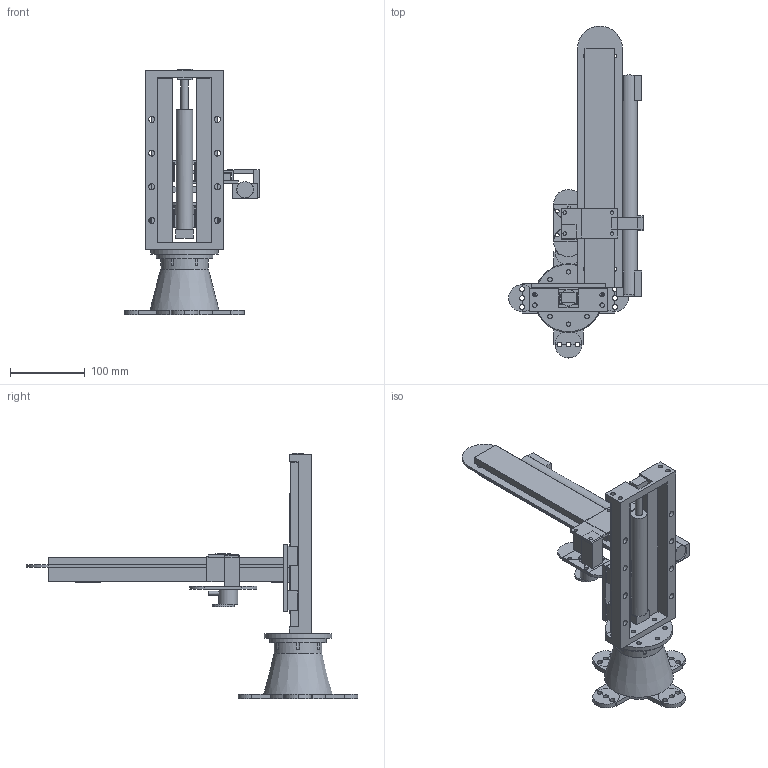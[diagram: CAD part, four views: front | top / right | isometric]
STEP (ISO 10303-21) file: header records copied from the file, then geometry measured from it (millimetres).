
FILE_DESCRIPTION(('FreeCAD Model'),'2;1');
FILE_NAME('Open CASCADE Shape Model','2026-11-16T19:21:06',('FreeCAD'),( 'FreeCAD'),'Open CASCADE STEP processor 7.8','FreeCAD','Unknown');
FILE_SCHEMA(('AUTOMOTIVE_DESIGN { 1 0 10303 214 1 1 1 1 }'));
Length unit declared in the file: millimetre
Products named in the file (1): Open CASCADE STEP translator 7.8 4
Bounding box: 180 x 443.5 x 328 mm (x, y, z)
Volume: 1259449.7 mm3; surface area: 400512.7 mm2
Topology: 24 solids, 24 shells, 409 faces, 1020 edges, 641 vertices
Faces by surface type: plane 269, cylinder 91, bspline 48, cone 1
Full cylindrical faces by diameter (mm): 4 x4, 4.8 x4, 5 x5, 5.2 x4, 6 x26, 6.6 x12, 8 x9, 10 x2, 12 x2, 16 x2, 20 x1, 22 x2, 25 x1, 28 x2, 30 x1, 32 x2, 64 x1, 76 x1, 90 x1
Entity records: 14003 total; most frequent: CARTESIAN_POINT 4488, ORIENTED_EDGE 2040, DIRECTION 1745, EDGE_CURVE 1020, VERTEX_POINT 641, LINE 585, VECTOR 585, AXIS2_PLACEMENT_3D 580
